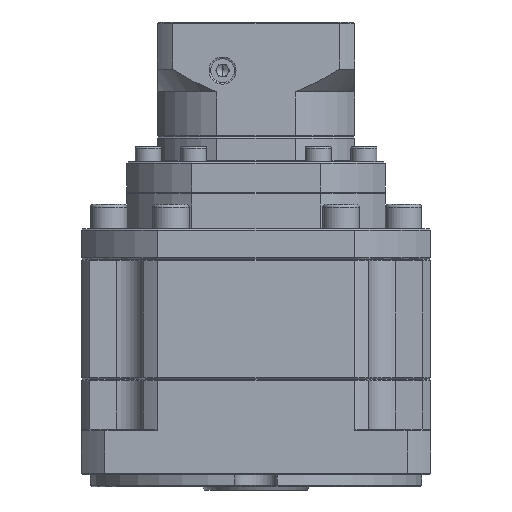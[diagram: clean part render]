
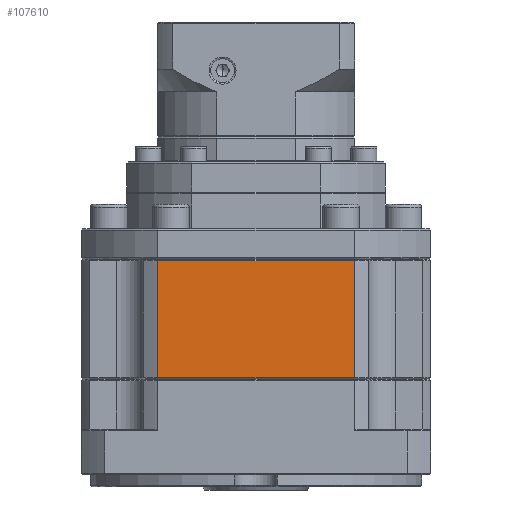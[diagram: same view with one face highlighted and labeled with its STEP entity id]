
A CAD part, front view. The second image highlights one B-rep face of the part: STEP entity #107610.
In plain terms, the highlighted planar face has unit normal (0, -1, 0).
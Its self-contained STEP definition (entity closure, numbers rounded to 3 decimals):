
#1312 = ORIENTED_EDGE ( 'NONE', *, *, #89582, .F. ) ;
#2982 = EDGE_CURVE ( 'NONE', #8961, #5274, #95769, .T. ) ;
#4506 = VECTOR ( 'NONE', #52236, 1000. ) ;
#4617 = EDGE_CURVE ( 'NONE', #41068, #8961, #105956, .T. ) ;
#5274 = VERTEX_POINT ( 'NONE', #62310 ) ;
#6269 = DIRECTION ( 'NONE',  ( -1., 0., 0. ) ) ;
#8961 = VERTEX_POINT ( 'NONE', #68825 ) ;
#16803 = AXIS2_PLACEMENT_3D ( 'NONE', #17954, #48575, #6269 ) ;
#17954 = CARTESIAN_POINT ( 'NONE',  ( 139.245, 27.792, -94.348 ) ) ;
#21620 = DIRECTION ( 'NONE',  ( 1., 0., 0. ) ) ;
#23185 = LINE ( 'NONE', #66924, #126196 ) ;
#28326 = VECTOR ( 'NONE', #21620, 1000. ) ;
#33523 = DIRECTION ( 'NONE',  ( 0., 0., 1. ) ) ;
#35543 = ORIENTED_EDGE ( 'NONE', *, *, #2982, .F. ) ;
#41068 = VERTEX_POINT ( 'NONE', #72968 ) ;
#41321 = DIRECTION ( 'NONE',  ( -1., 0., 0. ) ) ;
#48575 = DIRECTION ( 'NONE',  ( 0., 1., 0. ) ) ;
#52236 = DIRECTION ( 'NONE',  ( 0., 0., -1. ) ) ;
#53727 = ORIENTED_EDGE ( 'NONE', *, *, #4617, .F. ) ;
#54125 = EDGE_LOOP ( 'NONE', ( #35543, #53727, #1312, #105656 ) ) ;
#55224 = VERTEX_POINT ( 'NONE', #86003 ) ;
#62310 = CARTESIAN_POINT ( 'NONE',  ( 49.345, 27.792, -133.348 ) ) ;
#66924 = CARTESIAN_POINT ( 'NONE',  ( 49.345, 27.792, -94.348 ) ) ;
#68825 = CARTESIAN_POINT ( 'NONE',  ( 114.145, 27.792, -133.348 ) ) ;
#69270 = VECTOR ( 'NONE', #41321, 1000. ) ;
#72968 = CARTESIAN_POINT ( 'NONE',  ( 114.145, 27.792, -94.848 ) ) ;
#86003 = CARTESIAN_POINT ( 'NONE',  ( 49.345, 27.792, -94.848 ) ) ;
#89582 = EDGE_CURVE ( 'NONE', #55224, #41068, #134672, .T. ) ;
#90002 = EDGE_CURVE ( 'NONE', #5274, #55224, #23185, .T. ) ;
#94201 = CARTESIAN_POINT ( 'NONE',  ( 139.245, 27.792, -133.348 ) ) ;
#95769 = LINE ( 'NONE', #94201, #69270 ) ;
#103842 = CARTESIAN_POINT ( 'NONE',  ( 114.145, 27.792, -94.348 ) ) ;
#105656 = ORIENTED_EDGE ( 'NONE', *, *, #90002, .F. ) ;
#105956 = LINE ( 'NONE', #103842, #4506 ) ;
#107610 = ADVANCED_FACE ( 'NONE', ( #120178 ), #134909, .F. ) ;
#120178 = FACE_OUTER_BOUND ( 'NONE', #54125, .T. ) ;
#126196 = VECTOR ( 'NONE', #33523, 1000. ) ;
#127508 = CARTESIAN_POINT ( 'NONE',  ( 81.745, 27.792, -94.848 ) ) ;
#134672 = LINE ( 'NONE', #127508, #28326 ) ;
#134909 = PLANE ( 'NONE',  #16803 ) ;
